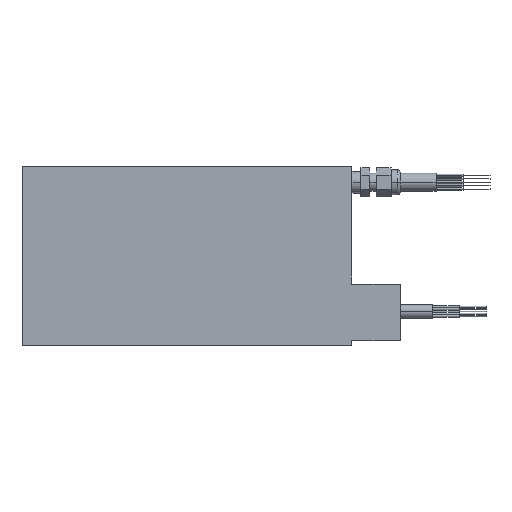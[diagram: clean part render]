
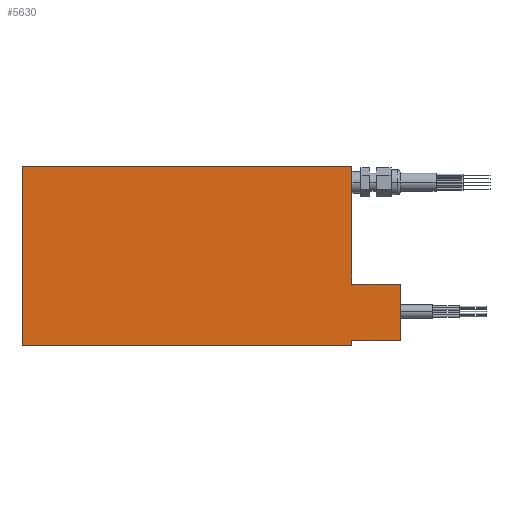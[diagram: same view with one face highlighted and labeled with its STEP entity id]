
A CAD part, front view. The second image highlights one B-rep face of the part: STEP entity #5630.
In plain terms, the highlighted planar face has unit normal (0, -1, 0).
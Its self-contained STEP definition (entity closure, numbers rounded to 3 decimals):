
#30=DIRECTION('',(0.,0.,-1.));
#31=VECTOR('',#30,100.);
#32=CARTESIAN_POINT('',(-91.75,0.,50.));
#33=LINE('',#32,#31);
#34=DIRECTION('',(1.,0.,0.));
#35=VECTOR('',#34,183.5);
#36=CARTESIAN_POINT('',(-91.75,0.,-50.));
#37=LINE('',#36,#35);
#38=DIRECTION('',(1.,0.,0.));
#39=VECTOR('',#38,26.8);
#40=CARTESIAN_POINT('',(91.75,0.,-15.61));
#41=LINE('',#40,#39);
#42=DIRECTION('',(1.,0.,0.));
#43=VECTOR('',#42,183.5);
#44=CARTESIAN_POINT('',(-91.75,0.,50.));
#45=LINE('',#44,#43);
#66=DIRECTION('',(0.,0.,-1.));
#67=VECTOR('',#66,65.61);
#68=CARTESIAN_POINT('',(91.75,0.,50.));
#69=LINE('',#68,#67);
#98=DIRECTION('',(0.,0.,-1.));
#99=VECTOR('',#98,2.84);
#100=CARTESIAN_POINT('',(91.75,0.,-47.16));
#101=LINE('',#100,#99);
#874=DIRECTION('',(1.,0.,0.));
#875=VECTOR('',#874,26.8);
#876=CARTESIAN_POINT('',(91.75,0.,-47.16));
#877=LINE('',#876,#875);
#945=DIRECTION('',(0.,0.,-1.));
#946=VECTOR('',#945,31.55);
#947=CARTESIAN_POINT('',(118.55,0.,-15.61));
#948=LINE('',#947,#946);
#4282=CARTESIAN_POINT('',(-91.75,0.,-50.));
#4284=VERTEX_POINT('',#4282);
#4296=CARTESIAN_POINT('',(-91.75,0.,50.));
#4297=VERTEX_POINT('',#4296);
#4298=CARTESIAN_POINT('',(91.75,0.,-50.));
#4300=VERTEX_POINT('',#4298);
#4312=CARTESIAN_POINT('',(91.75,0.,50.));
#4313=VERTEX_POINT('',#4312);
#5356=CARTESIAN_POINT('',(118.55,0.,-15.61));
#5357=CARTESIAN_POINT('',(118.55,0.,-47.16));
#5358=VERTEX_POINT('',#5356);
#5359=VERTEX_POINT('',#5357);
#5360=CARTESIAN_POINT('',(91.75,0.,-47.16));
#5362=VERTEX_POINT('',#5360);
#5370=CARTESIAN_POINT('',(91.75,0.,-15.61));
#5371=VERTEX_POINT('',#5370);
#5609=CARTESIAN_POINT('',(-91.75,0.,50.));
#5610=DIRECTION('',(0.,-1.,0.));
#5611=DIRECTION('',(0.,0.,-1.));
#5612=AXIS2_PLACEMENT_3D('',#5609,#5610,#5611);
#5613=PLANE('',#5612);
#5615=ORIENTED_EDGE('',*,*,#5614,.T.);
#5617=ORIENTED_EDGE('',*,*,#5616,.T.);
#5619=ORIENTED_EDGE('',*,*,#5618,.T.);
#5621=ORIENTED_EDGE('',*,*,#5620,.F.);
#5623=ORIENTED_EDGE('',*,*,#5622,.T.);
#5624=ORIENTED_EDGE('',*,*,#5600,.F.);
#5625=ORIENTED_EDGE('',*,*,#5589,.F.);
#5627=ORIENTED_EDGE('',*,*,#5626,.T.);
#5628=EDGE_LOOP('',(#5615,#5617,#5619,#5621,#5623,#5624,#5625,#5627));
#5629=FACE_OUTER_BOUND('',#5628,.F.);
#5630=ADVANCED_FACE('',(#5629),#5613,.T.);
#5589=EDGE_CURVE('',#4297,#4284,#33,.T.);
#5600=EDGE_CURVE('',#4284,#4300,#37,.T.);
#5614=EDGE_CURVE('',#4313,#5371,#69,.T.);
#5616=EDGE_CURVE('',#5371,#5358,#41,.T.);
#5618=EDGE_CURVE('',#5358,#5359,#948,.T.);
#5620=EDGE_CURVE('',#5362,#5359,#877,.T.);
#5622=EDGE_CURVE('',#5362,#4300,#101,.T.);
#5626=EDGE_CURVE('',#4297,#4313,#45,.T.);
